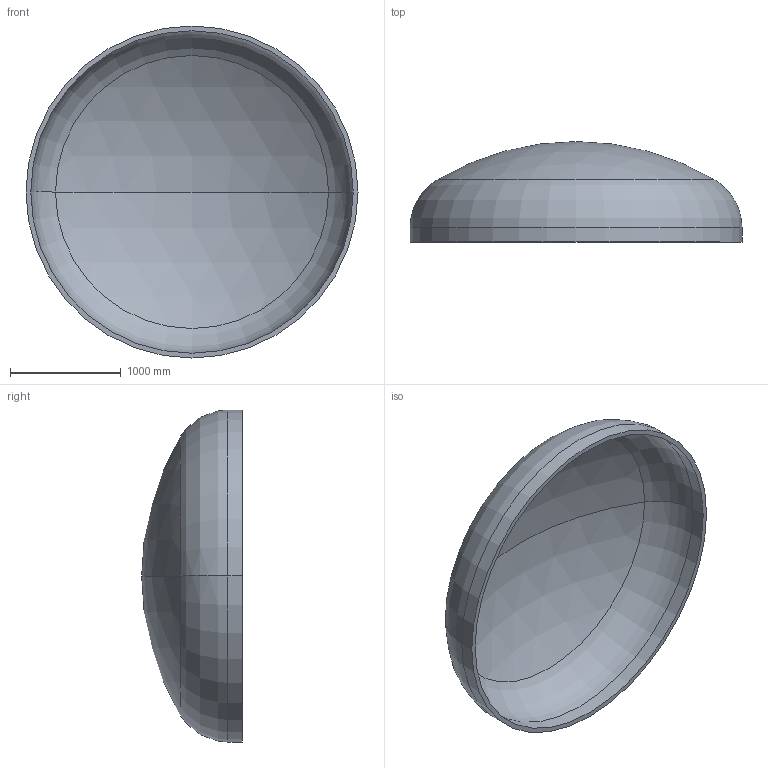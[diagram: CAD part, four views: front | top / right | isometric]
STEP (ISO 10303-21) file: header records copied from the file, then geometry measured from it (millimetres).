
FILE_DESCRIPTION (( 'STEP AP203' ), '1' );
FILE_NAME ('DIN 28013 Korbbogenform_-_Boden DIN 28013 - 3000 x 130 - I - s=43.step', '2016-07-01T17:47:48', ( '' ), ( '' ), 'SwSTEP 2.0', 'SolidWorks 2013', '' );
FILE_SCHEMA (( 'CONFIG_CONTROL_DESIGN' ));
Length unit declared in the file: millimetre
Products named in the file (1): DIN 28013 Korbbogenform_-_Boden DIN 28013 - 3000 x 130 - I - s=43
Bounding box: 3000 x 908.79 x 3000 mm (x, y, z)
Volume: 464646042.6 mm3; surface area: 22014765.5 mm2
Topology: 1 solids, 1 shells, 13 faces, 24 edges, 14 vertices
Faces by surface type: torus 4, cylinder 4, sphere 4, plane 1
Entity records: 407 total; most frequent: DIRECTION 72, CARTESIAN_POINT 52, ORIENTED_EDGE 48, AXIS2_PLACEMENT_3D 34, EDGE_CURVE 24, CIRCLE 20, EDGE_LOOP 14, VERTEX_POINT 14
